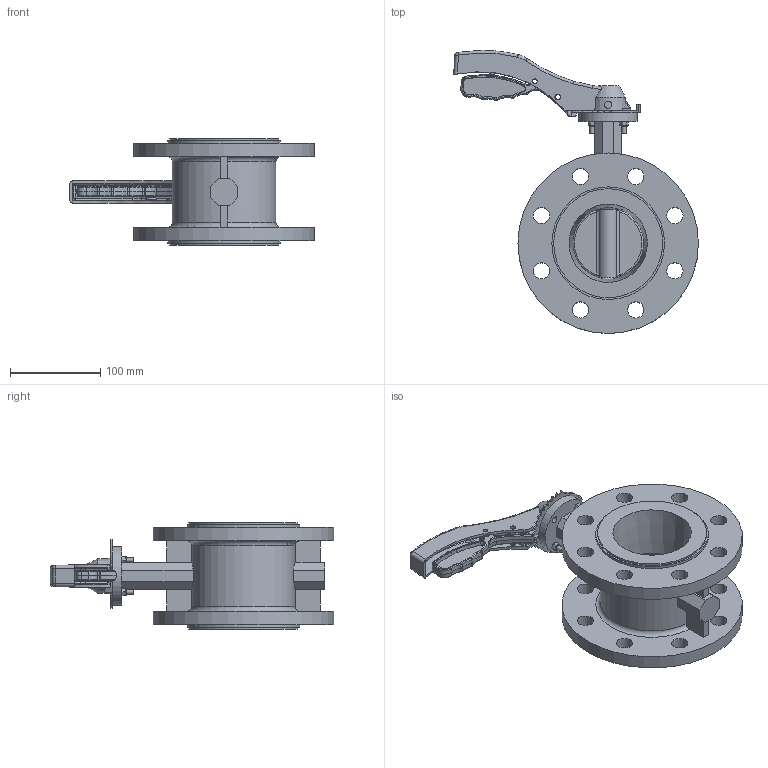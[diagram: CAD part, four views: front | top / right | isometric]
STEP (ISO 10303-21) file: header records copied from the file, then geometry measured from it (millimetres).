
FILE_DESCRIPTION (( 'STEP AP214' ), '1' );
FILE_NAME ('忒梟 邧楊擘評概 Fig.3226-204B-80-16.STEP', '2026-03-19T06:57:09', ( '' ), ( '' ), 'SwSTEP 2.0', 'SolidWorks 2024', '' );
FILE_SCHEMA (( 'AUTOMOTIVE_DESIGN' ));
Length unit declared in the file: millimetre
Products named in the file (1): 手柄 双法兰蝶阀 Fig.3226-204B-80-16
Bounding box: 271.33 x 313.79 x 118 mm (x, y, z)
Volume: 1432497.8 mm3; surface area: 259308.2 mm2
Topology: 1 solids, 5 shells, 1103 faces, 3108 edges, 2062 vertices
Faces by surface type: plane 743, cylinder 162, bspline 116, cone 74, torus 8
Full cylindrical faces by diameter (mm): 5 x5, 5.25 x3, 6.2 x2, 7 x4, 7.04 x2, 8 x1, 8.9 x2, 12.75 x1, 18 x16, 19.6 x1, 20 x1, 30 x1, 65 x1, 120.8 x2, 124.8 x2, 200 x2
Entity records: 57294 total; most frequent: CARTESIAN_POINT 18911, ORIENTED_EDGE 5994, DIRECTION 4458, EDGE_CURVE 2997, VERTEX_POINT 2017, LINE 1962, VECTOR 1962, EDGE_LOOP 1262
